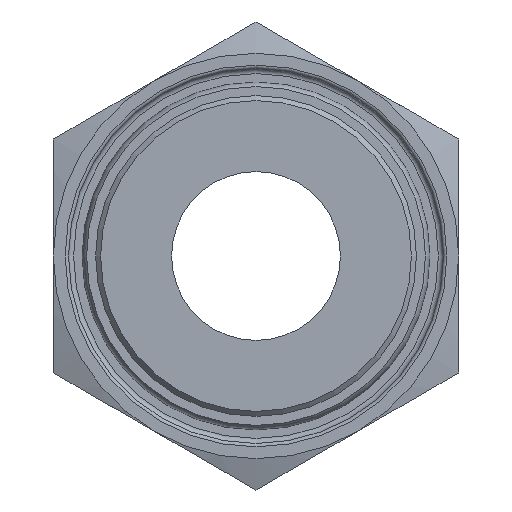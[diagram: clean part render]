
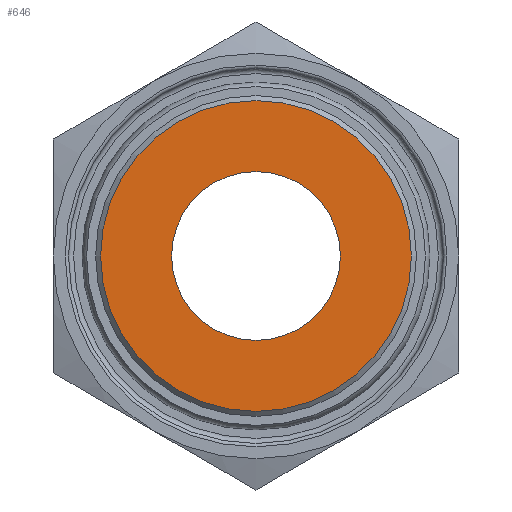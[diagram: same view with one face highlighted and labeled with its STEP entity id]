
A CAD part, front view. The second image highlights one B-rep face of the part: STEP entity #646.
In plain terms, the highlighted planar face has unit normal (0, -1, 0).
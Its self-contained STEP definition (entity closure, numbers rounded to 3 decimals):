
#72=FACE_BOUND('',#166,.T.);
#83=PLANE('',#794);
#116=FACE_OUTER_BOUND('',#165,.T.);
#165=EDGE_LOOP('',(#501));
#166=EDGE_LOOP('',(#502));
#258=CIRCLE('',#778,5.);
#266=CIRCLE('',#789,9.2);
#305=VERTEX_POINT('',#1123);
#313=VERTEX_POINT('',#1144);
#369=EDGE_CURVE('',#305,#305,#258,.T.);
#378=EDGE_CURVE('',#313,#313,#266,.T.);
#501=ORIENTED_EDGE('',*,*,#378,.F.);
#502=ORIENTED_EDGE('',*,*,#369,.T.);
#646=ADVANCED_FACE('',(#116,#72),#83,.T.);
#778=AXIS2_PLACEMENT_3D('',#1125,#914,#915);
#789=AXIS2_PLACEMENT_3D('',#1145,#937,#938);
#794=AXIS2_PLACEMENT_3D('',#1155,#949,#950);
#914=DIRECTION('center_axis',(0.,1.,0.));
#915=DIRECTION('ref_axis',(1.,0.,0.));
#937=DIRECTION('center_axis',(0.,1.,0.));
#938=DIRECTION('ref_axis',(-1.,0.,0.));
#949=DIRECTION('center_axis',(0.,-1.,0.));
#950=DIRECTION('ref_axis',(0.,0.,-1.));
#1123=CARTESIAN_POINT('',(-5.,-9.,0.));
#1125=CARTESIAN_POINT('Origin',(0.,-9.,0.));
#1144=CARTESIAN_POINT('',(9.2,-9.,0.));
#1145=CARTESIAN_POINT('Origin',(0.,-9.,0.));
#1155=CARTESIAN_POINT('Origin',(0.,-9.,0.));
